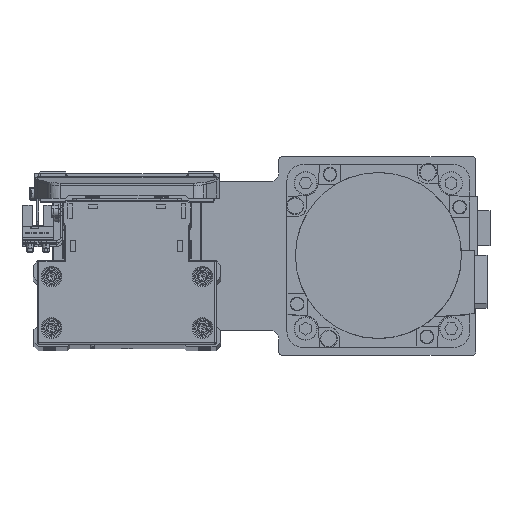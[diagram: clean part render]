
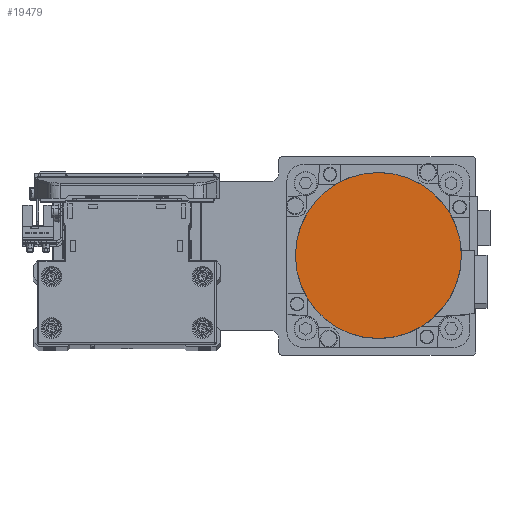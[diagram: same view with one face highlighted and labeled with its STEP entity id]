
A CAD part, top view. The second image highlights one B-rep face of the part: STEP entity #19479.
In plain terms, the highlighted planar face has unit normal (0, 0, 1) as drawn and (0, 0, -1) by its records, which use the part's own axes.
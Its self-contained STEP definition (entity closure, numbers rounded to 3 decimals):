
#112 = AXIS2_PLACEMENT_3D ( 'NONE', #22358, #34726, #6916 ) ;
#2002 = CARTESIAN_POINT ( 'NONE',  ( 0., 36.3, -122.2 ) ) ;
#3585 = CARTESIAN_POINT ( 'NONE',  ( 0., 0., -122.2 ) ) ;
#4808 = EDGE_CURVE ( 'NONE', #12662, #23952, #12551, .T. ) ;
#6916 = DIRECTION ( 'NONE',  ( 0., -1., 0. ) ) ;
#6965 = EDGE_LOOP ( 'NONE', ( #13552, #16450 ) ) ;
#7916 = DIRECTION ( 'NONE',  ( 1., 0., 0. ) ) ;
#7965 = EDGE_CURVE ( 'NONE', #23952, #12662, #17608, .T. ) ;
#10952 = PLANE ( 'NONE',  #33957 ) ;
#12551 = CIRCLE ( 'NONE', #35201, 36.3 ) ;
#12662 = VERTEX_POINT ( 'NONE', #2002 ) ;
#13552 = ORIENTED_EDGE ( 'NONE', *, *, #4808, .F. ) ;
#15968 = DIRECTION ( 'NONE',  ( 0., 0., 1. ) ) ;
#16450 = ORIENTED_EDGE ( 'NONE', *, *, #7965, .F. ) ;
#17608 = CIRCLE ( 'NONE', #112, 36.3 ) ;
#19479 = ADVANCED_FACE ( 'NONE', ( #38748 ), #10952, .F. ) ;
#22358 = CARTESIAN_POINT ( 'NONE',  ( 0., 0., -122.2 ) ) ;
#23312 = CARTESIAN_POINT ( 'NONE',  ( 0., 0., -122.2 ) ) ;
#23952 = VERTEX_POINT ( 'NONE', #34080 ) ;
#28310 = DIRECTION ( 'NONE',  ( 0., 1., 0. ) ) ;
#33957 = AXIS2_PLACEMENT_3D ( 'NONE', #23312, #35703, #7916 ) ;
#34080 = CARTESIAN_POINT ( 'NONE',  ( 0., -36.3, -122.2 ) ) ;
#34726 = DIRECTION ( 'NONE',  ( 0., 0., 1. ) ) ;
#35201 = AXIS2_PLACEMENT_3D ( 'NONE', #3585, #15968, #28310 ) ;
#35703 = DIRECTION ( 'NONE',  ( 0., 0., 1. ) ) ;
#38748 = FACE_OUTER_BOUND ( 'NONE', #6965, .T. ) ;
